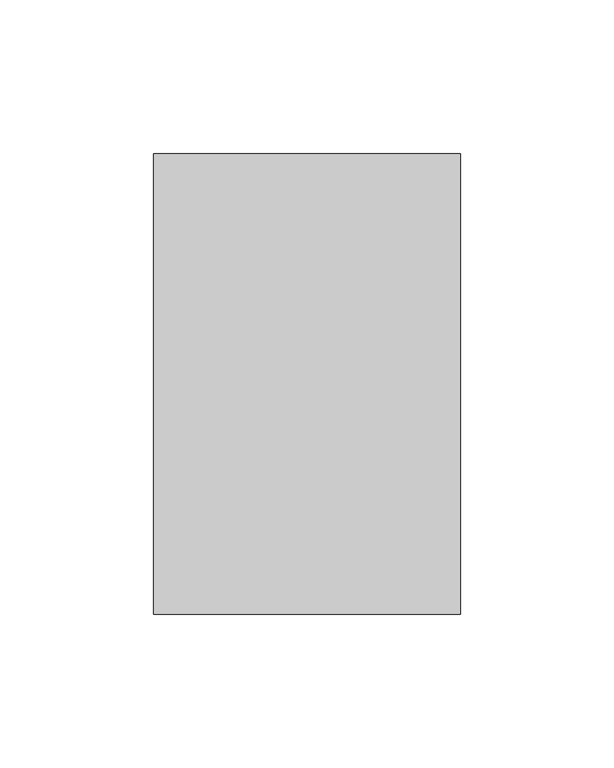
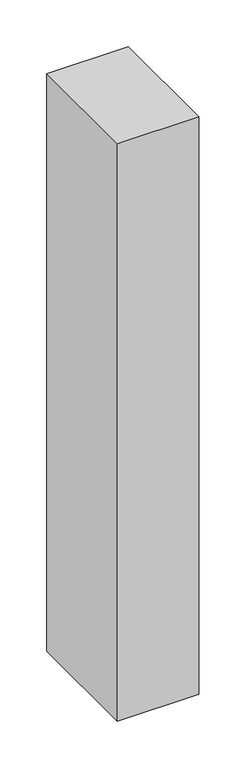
"""IFC4 building model written with IfcOpenShell, lengths in millimetres: member geometry, 矩形竖梃 : 教学楼 – 矩形竖梃 – 100x150mm."""

from ifc_helpers import new_model, si_unit, frame, origin, place, context, project, spatial, polyline, outline, extrude, source, transform, mapped, element, save


def member_adcc9943(model_context):
    return source(origin(), model_context, "Body", "SweptSolid", [
        extrude(outline(polyline([(0.0, 75.0), (0.0, -75.0), (-100.0, -75.0), (-100.0, 75.0), (0.0, 75.0)])), frame((0.0, 0.0, -750.0000003), z_axis=(0.0, 0.0, 1.0), x_axis=(1.0, 0.0, 0.0)), (0.0, 0.0, 1.0), 750.0000003),
    ])


if __name__ == "__main__":
    model = new_model("IFC4")
    model_context = context("Model", 3, world=origin())
    ifc_project = project(units=[si_unit("LENGTHUNIT", "METRE", prefix="MILLI")], contexts=[model_context])
    site = spatial("IfcSite", under=ifc_project)
    building = spatial("IfcBuilding", under=site)
    placement = place(None, origin())
    member_shape = member_adcc9943(model_context)
    element("IfcMember", 1, ObjectType="矩形竖梃 : 教学楼 – 矩形竖梃 – 100x150mm", at=placement, inside=building, context=model_context, shape_type="MappedRepresentation", body=[
        mapped(member_shape, transform((0.0, 0.0, 0.0), x_axis=(1.0, 0.0, 0.0), y_axis=(0.0, 1.0, 0.0), z_axis=(0.0, 0.0, 1.0))),
    ])
    save(model, "model.ifc")
